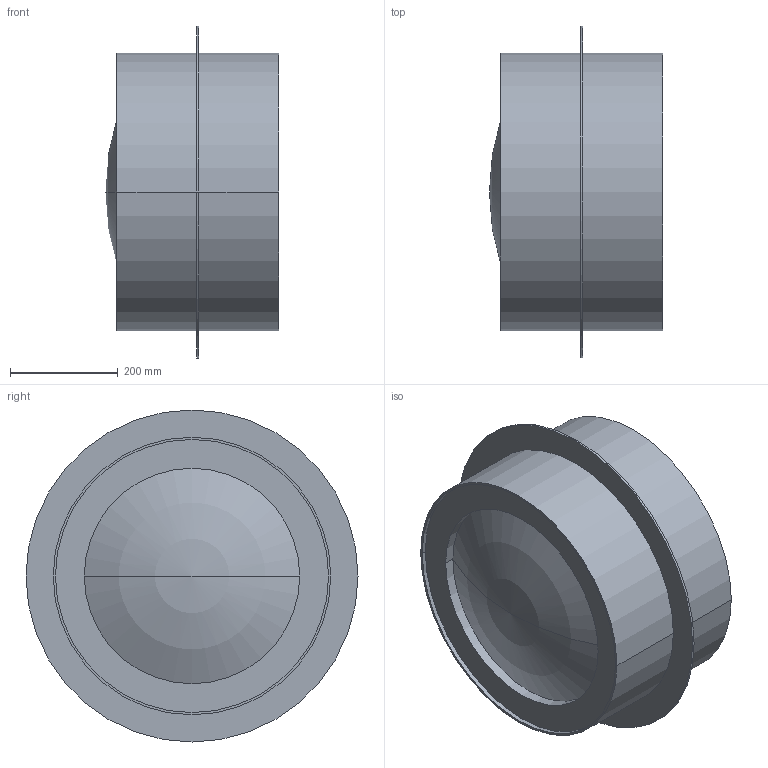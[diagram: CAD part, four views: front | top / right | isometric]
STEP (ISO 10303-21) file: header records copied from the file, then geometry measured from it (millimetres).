
FILE_DESCRIPTION((''),'2;1');
FILE_NAME('52057281','2024-02-15T14:42:11',('ka'),('HUBER SE'),'CREO PARAMETRIC BY PTC INC, 2022162','CREO PARAMETRIC BY PTC INC, 2022162','');
FILE_SCHEMA(('AUTOMOTIVE_DESIGN { 1 0 10303 214 1 1 1 1 }'));
Length unit declared in the file: millimetre
Products named in the file (1): 52057281
Bounding box: 321 x 616 x 616 mm (x, y, z)
Volume: 8300976.7 mm3; surface area: 1545910.6 mm2
Topology: 1 solids, 1 shells, 60 faces, 122 edges, 78 vertices
Faces by surface type: cylinder 38, plane 18, sphere 4
Entity records: 2690 total; most frequent: DIRECTION 378, CARTESIAN_POINT 297, ORIENTED_EDGE 236, AXIS2_PLACEMENT_3D 162, EDGE_CURVE 118, COLOUR_RGB 110, CIRCLE 80, VERTEX_POINT 78
